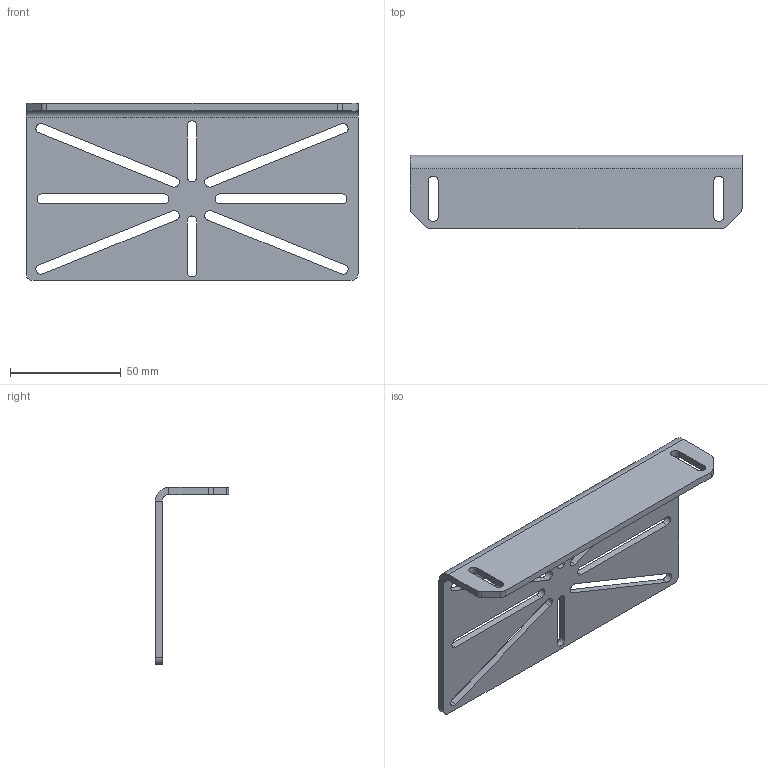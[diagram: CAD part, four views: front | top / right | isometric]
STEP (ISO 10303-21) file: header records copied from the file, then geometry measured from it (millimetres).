
FILE_DESCRIPTION (( 'STEP AP214' ), '1' );
FILE_NAME ('RTF_RIGHT ANGLE BRACKET.STEP', '2022-05-19T18:02:44', ( '' ), ( '' ), 'SwSTEP 2.0', 'SolidWorks 2022', '' );
FILE_SCHEMA (( 'AUTOMOTIVE_DESIGN' ));
Length unit declared in the file: millimetre
Products named in the file (1): RTF_RIGHT ANGLE BRACKET
Bounding box: 150 x 33.18 x 80 mm (x, y, z)
Volume: 44393.6 mm3; surface area: 32820.2 mm2
Topology: 1 solids, 1 shells, 68 faces, 190 edges, 124 vertices
Faces by surface type: cylinder 34, plane 34
Entity records: 2272 total; most frequent: DIRECTION 396, CARTESIAN_POINT 383, ORIENTED_EDGE 380, EDGE_CURVE 190, AXIS2_PLACEMENT_3D 137, VERTEX_POINT 124, VECTOR 122, LINE 122
